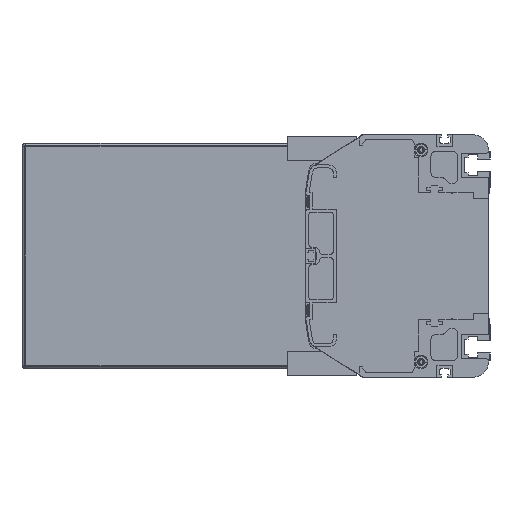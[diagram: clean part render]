
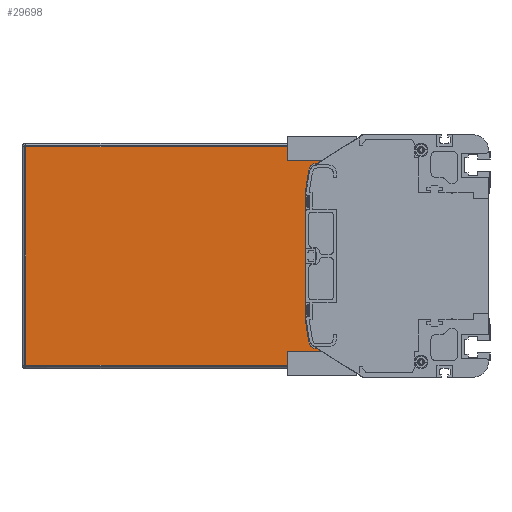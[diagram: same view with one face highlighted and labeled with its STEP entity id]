
A CAD part, left-side view. The second image highlights one B-rep face of the part: STEP entity #29698.
In plain terms, the highlighted planar face has unit normal (-1, 0, 0).
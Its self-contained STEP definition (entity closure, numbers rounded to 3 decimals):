
#814=DIRECTION('',(0.,-1.,0.));
#815=VECTOR('',#814,220.5);
#816=CARTESIAN_POINT('',(786.5,306.5,-72.));
#817=LINE('',#816,#815);
#4720=DIRECTION('',(0.,-1.,0.));
#4721=VECTOR('',#4720,28.728);
#4722=CARTESIAN_POINT('',(786.5,114.728,61.));
#4723=LINE('',#4722,#4721);
#4766=DIRECTION('',(0.,1.,0.));
#4767=VECTOR('',#4766,28.728);
#4768=CARTESIAN_POINT('',(786.5,86.,-61.));
#4769=LINE('',#4768,#4767);
#4779=DIRECTION('',(0.,0.,-1.));
#4780=VECTOR('',#4779,11.);
#4781=CARTESIAN_POINT('',(786.5,86.,-61.));
#4782=LINE('',#4781,#4780);
#4788=DIRECTION('',(0.,0.,-1.));
#4789=VECTOR('',#4788,11.);
#4790=CARTESIAN_POINT('',(786.5,86.,72.));
#4791=LINE('',#4790,#4789);
#10798=CARTESIAN_POINT('',(786.5,114.728,56.));
#10799=DIRECTION('',(-1.,0.,0.));
#10800=DIRECTION('',(0.,0.,1.));
#10801=AXIS2_PLACEMENT_3D('',#10798,#10799,#10800);
#10803=DIRECTION('',(0.,0.156,-0.988));
#10804=VECTOR('',#10803,14.963);
#10805=CARTESIAN_POINT('',(786.5,119.666,56.78));
#10806=LINE('',#10805,#10804);
#10807=DIRECTION('',(0.,-0.156,-0.988));
#10808=VECTOR('',#10807,14.963);
#10809=CARTESIAN_POINT('',(786.5,122.,-42.));
#10810=LINE('',#10809,#10808);
#10811=CARTESIAN_POINT('',(786.5,114.728,-56.));
#10812=DIRECTION('',(-1.,0.,0.));
#10813=DIRECTION('',(0.,0.988,-0.156));
#10814=AXIS2_PLACEMENT_3D('',#10811,#10812,#10813);
#10820=DIRECTION('',(0.,0.,-1.));
#10821=VECTOR('',#10820,144.);
#10822=CARTESIAN_POINT('',(786.5,306.5,72.));
#10823=LINE('',#10822,#10821);
#10911=DIRECTION('',(0.,1.,0.));
#10912=VECTOR('',#10911,220.5);
#10913=CARTESIAN_POINT('',(786.5,86.,72.));
#10914=LINE('',#10913,#10912);
#11202=DIRECTION('',(0.,0.,1.));
#11203=VECTOR('',#11202,84.);
#11204=CARTESIAN_POINT('',(786.5,122.,-42.));
#11205=LINE('',#11204,#11203);
#13063=CARTESIAN_POINT('',(786.5,306.5,-72.));
#13064=CARTESIAN_POINT('',(786.5,86.,-72.));
#13065=VERTEX_POINT('',#13063);
#13066=VERTEX_POINT('',#13064);
#13067=CARTESIAN_POINT('',(786.5,86.,-61.));
#13068=VERTEX_POINT('',#13067);
#13069=CARTESIAN_POINT('',(786.5,114.728,-61.));
#13070=VERTEX_POINT('',#13069);
#13071=CARTESIAN_POINT('',(786.5,119.666,-56.78));
#13072=VERTEX_POINT('',#13071);
#13073=CARTESIAN_POINT('',(786.5,122.,-42.));
#13074=VERTEX_POINT('',#13073);
#13075=CARTESIAN_POINT('',(786.5,122.,42.));
#13076=VERTEX_POINT('',#13075);
#13077=CARTESIAN_POINT('',(786.5,119.666,56.78));
#13078=VERTEX_POINT('',#13077);
#13079=CARTESIAN_POINT('',(786.5,114.728,61.));
#13080=VERTEX_POINT('',#13079);
#13081=CARTESIAN_POINT('',(786.5,86.,61.));
#13082=VERTEX_POINT('',#13081);
#13083=CARTESIAN_POINT('',(786.5,86.,72.));
#13084=VERTEX_POINT('',#13083);
#13085=CARTESIAN_POINT('',(786.5,306.5,72.));
#13086=VERTEX_POINT('',#13085);
#29672=CARTESIAN_POINT('',(786.5,196.25,0.));
#29673=DIRECTION('',(1.,0.,0.));
#29674=DIRECTION('',(0.,0.,-1.));
#29675=AXIS2_PLACEMENT_3D('',#29672,#29673,#29674);
#29676=PLANE('',#29675);
#29677=ORIENTED_EDGE('',*,*,#17102,.F.);
#29679=ORIENTED_EDGE('',*,*,#29678,.F.);
#29681=ORIENTED_EDGE('',*,*,#29680,.F.);
#29682=ORIENTED_EDGE('',*,*,#21327,.T.);
#29683=ORIENTED_EDGE('',*,*,#21234,.F.);
#29685=ORIENTED_EDGE('',*,*,#29684,.T.);
#29687=ORIENTED_EDGE('',*,*,#29686,.T.);
#29689=ORIENTED_EDGE('',*,*,#29688,.F.);
#29691=ORIENTED_EDGE('',*,*,#29690,.T.);
#29693=ORIENTED_EDGE('',*,*,#29692,.T.);
#29694=ORIENTED_EDGE('',*,*,#21285,.F.);
#29695=ORIENTED_EDGE('',*,*,#21301,.T.);
#29696=EDGE_LOOP('',(#29677,#29679,#29681,#29682,#29683,#29685,#29687,#29689,
#29691,#29693,#29694,#29695));
#29697=FACE_OUTER_BOUND('',#29696,.F.);
#29698=ADVANCED_FACE('',(#29697),#29676,.F.);
#10802=CIRCLE('',#10801,5.);
#10815=CIRCLE('',#10814,5.);
#17102=EDGE_CURVE('',#13065,#13066,#817,.T.);
#21234=EDGE_CURVE('',#13080,#13082,#4723,.T.);
#21285=EDGE_CURVE('',#13068,#13070,#4769,.T.);
#21301=EDGE_CURVE('',#13068,#13066,#4782,.T.);
#21327=EDGE_CURVE('',#13084,#13082,#4791,.T.);
#29678=EDGE_CURVE('',#13086,#13065,#10823,.T.);
#29680=EDGE_CURVE('',#13084,#13086,#10914,.T.);
#29684=EDGE_CURVE('',#13080,#13078,#10802,.T.);
#29686=EDGE_CURVE('',#13078,#13076,#10806,.T.);
#29688=EDGE_CURVE('',#13074,#13076,#11205,.T.);
#29690=EDGE_CURVE('',#13074,#13072,#10810,.T.);
#29692=EDGE_CURVE('',#13072,#13070,#10815,.T.);
